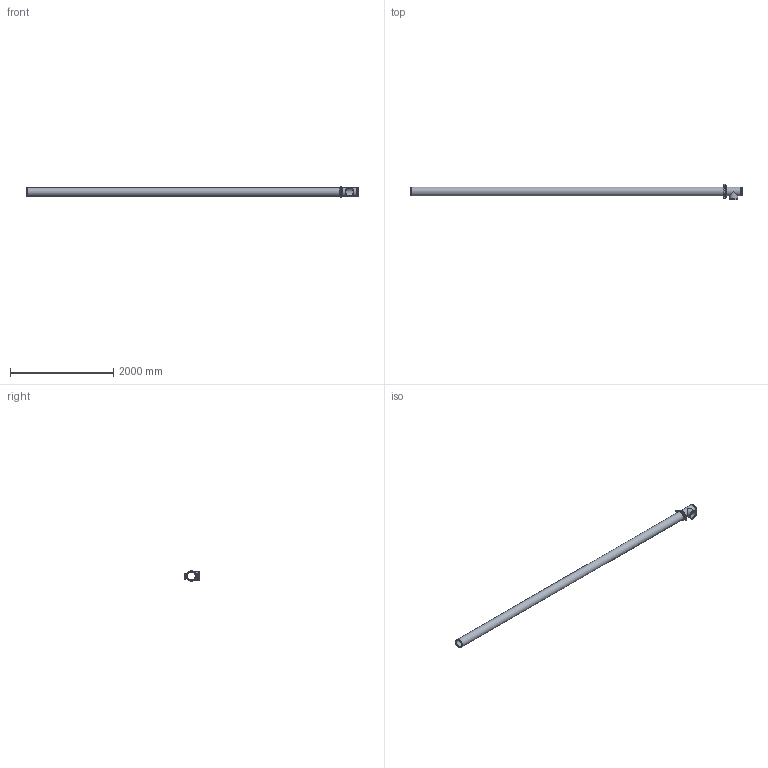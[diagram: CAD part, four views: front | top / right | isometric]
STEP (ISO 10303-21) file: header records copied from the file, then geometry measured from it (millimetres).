
FILE_DESCRIPTION(/* description */ ('VIC LONG RUN FITTING No R12 (OGS)','CAx-IF Rec.Pracs.---Representation and Presentation of Product Manufacturing Information (PMI)---4.0---2014-10-13'),/* implementation_level */ '2;1');
FILE_NAME(/* name */ 'C:\Users\Vjadhav\AppData\Roaming\Autodesk\ApplicationPlugins\Back Up\Victaulic_IPS_Long Run Fittings_No R12 (OGS)\Victaulic_IPS_Long Run Fittings_No R12 (OGS)_6 (150).stp',/* time_stamp */ '2020-10-06T18:49:08+05:00',/* author */ ('Vjadhav'),/* organization */ ('Victaulic'),/* preprocessor_version */ 'ST-DEVELOPER v17.2',/* originating_system */ 'Autodesk Inventor 2019',/* authorisation */ '');
FILE_SCHEMA (('AP242_MANAGED_MODEL_BASED_3D_ENGINEERING_MIM_LF { 1 0 10303 442 1 1 4 }'));
Length unit declared in the file: inch
Products named in the file (4): R12-06.0; 020-06.0; 107N-06.0; Pipe_R10-06.0
Assembly tree (3 placements, depth 2):
  R12-06.0
    020-06.0
    107N-06.0
    Pipe_R10-06.0
Bounding box: 6430.01 x 307.98 x 205.74 mm (x, y, z)
Volume: 24020525.7 mm3; surface area: 6716723.8 mm2
Topology: 3 solids, 3 shells, 154 faces, 389 edges, 264 vertices
Faces by surface type: plane 65, cylinder 61, bspline 16, torus 6, cone 4, sphere 2
Full cylindrical faces by diameter (mm): 15.875 x4, 27.381 x2, 154.051 x3, 155.575 x1, 163.957 x5, 168.275 x10
Entity records: 5551 total; most frequent: CARTESIAN_POINT 1370, DIRECTION 855, ORIENTED_EDGE 778, EDGE_CURVE 389, AXIS2_PLACEMENT_3D 341, VERTEX_POINT 264, EDGE_LOOP 189, LINE 173
